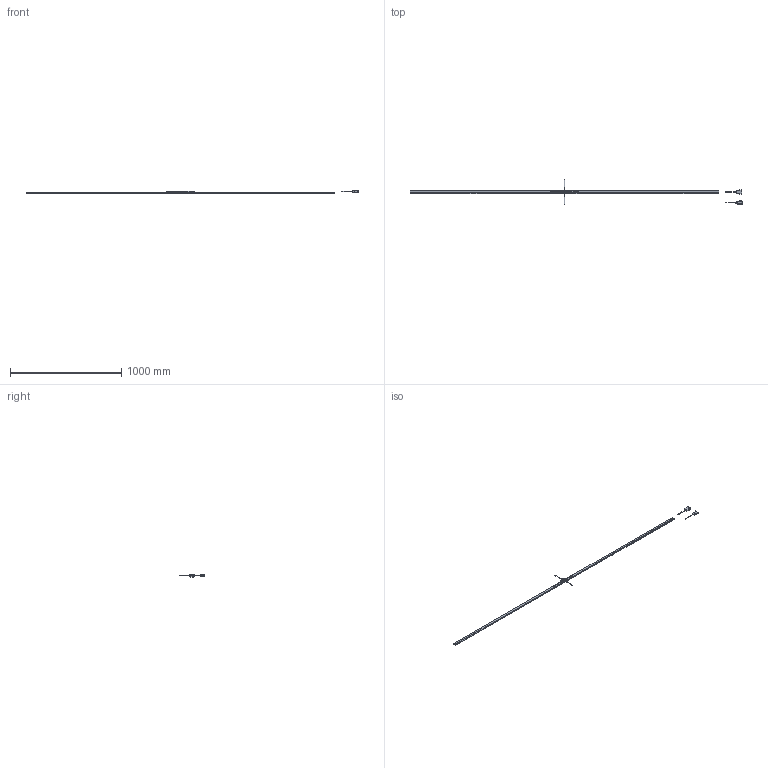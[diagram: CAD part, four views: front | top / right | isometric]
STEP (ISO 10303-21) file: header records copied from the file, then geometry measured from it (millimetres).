
FILE_DESCRIPTION(('Creo Elements/Direct Modeling STEP Export'),'2;1');
FILE_NAME('ABS_ST700-2700A.stp','2018-02-14T12:57:04',(''),(''),'Creo Elements/Direct Modeling STEP processor for AP214 (Solid Model)','Creo Elements/Direct Modeling 18.1B 29-Sep-2012 (C) Parametric Technology GmbH','');
FILE_SCHEMA(('AUTOMOTIVE_DESIGN { 1 0 10303 214 1 1 1 1 }'));
Length unit declared in the file: millimetre
Products named in the file (10): Scale_2700; Detector_Head_D; Detector_Head_L; Detector_Head_R; Detector_Head_U; Detector_Head; Connector（Dsub15pin）; Connector（Dsub9pin）; Connector; ABS_ST700-2700A
Assembly tree (9 placements, depth 3):
  ABS_ST700-2700A
    Connector
      Connector（Dsub9pin）
      Connector（Dsub15pin）
    Detector_Head
      Detector_Head_U
      Detector_Head_R
      Detector_Head_L
      Detector_Head_D
    Scale_2700
Bounding box: 2989.3 x 227.7 x 23.3 mm (x, y, z)
Volume: 600047.1 mm3; surface area: 221175.4 mm2
Topology: 7 solids, 7 shells, 6800 faces, 18602 edges, 12244 vertices
Faces by surface type: plane 5298, cylinder 1191, cone 185, torus 58, extrusion 36, bspline 24, revolution 8
Entity records: 217450 total; most frequent: CARTESIAN_POINT 44880, ORIENTED_EDGE 37132, DIRECTION 33519, EDGE_CURVE 18566, VECTOR 15677, LINE 15661, VERTEX_POINT 12244, AXIS2_PLACEMENT_3D 8915
